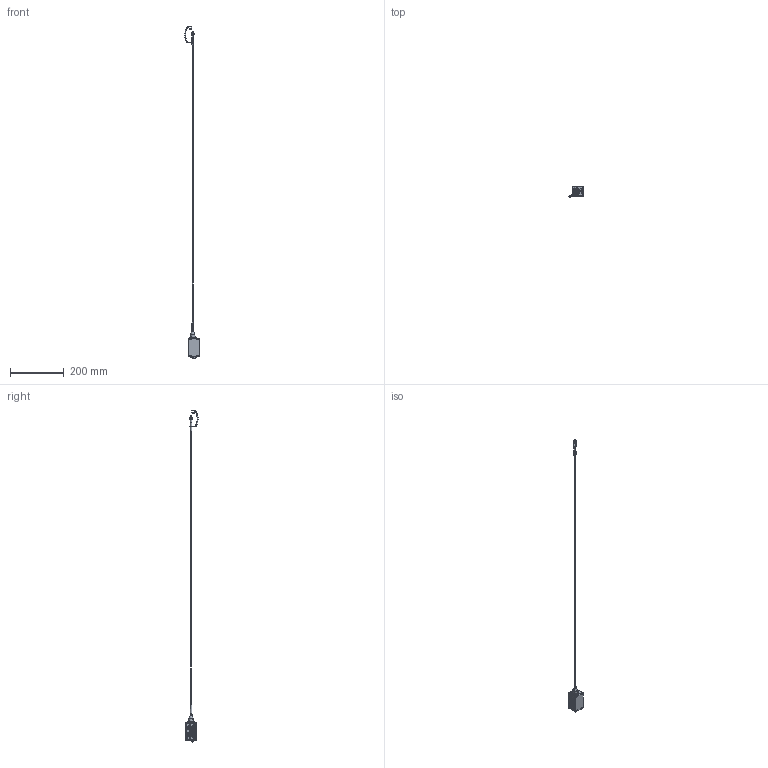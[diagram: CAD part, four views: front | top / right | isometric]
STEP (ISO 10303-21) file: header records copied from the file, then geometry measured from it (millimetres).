
FILE_DESCRIPTION (( 'STEP AP214' ), '1' );
FILE_NAME ('OBIS FP.STEP', '2012-01-18T19:09:18', ( 'coherent' ), ( '' ), 'SwSTEP 2.0', 'SolidWorks 2012', '' );
FILE_SCHEMA (( 'AUTOMOTIVE_DESIGN' ));
Length unit declared in the file: inch
Products named in the file (1): OBIS FP
Bounding box: 54.27 x 45.21 x 1237.09 mm (x, y, z)
Surface area: 33517.4 mm2 (no closed solid volume)
Topology: 0 solids, 189 shells, 649 faces, 13002 edges, 12398 vertices
Faces by surface type: plane 422, cylinder 170, bspline 21, cone 18, torus 14, sphere 4
Entity records: 160166 total; most frequent: CARTESIAN_POINT 77174, ORIENTED_EDGE 13867, EDGE_CURVE 12998, VERTEX_POINT 12396, DIRECTION 9958, VECTOR 6290, LINE 6290, B_SPLINE_CURVE_WITH_KNOTS 5501
